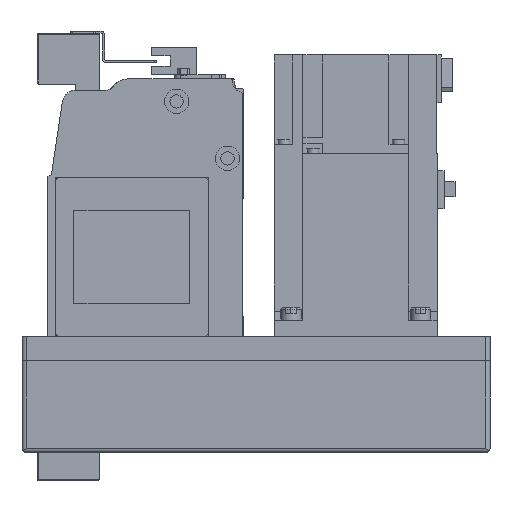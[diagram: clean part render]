
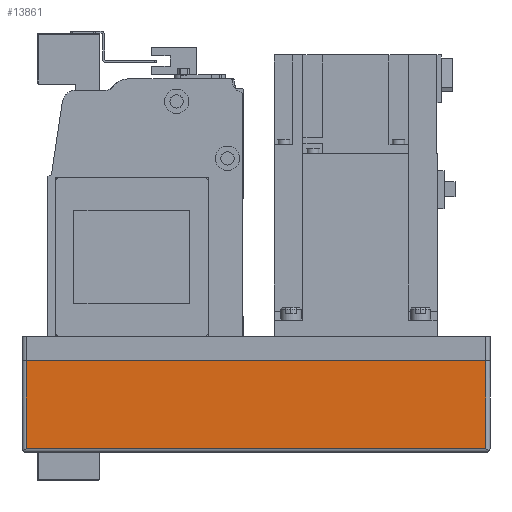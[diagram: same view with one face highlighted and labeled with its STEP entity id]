
A CAD part, left-side view. The second image highlights one B-rep face of the part: STEP entity #13861.
In plain terms, the highlighted planar face has unit normal (-1, 0, 0) as drawn and (0, 1, 0) by its records, which use the part's own axes.
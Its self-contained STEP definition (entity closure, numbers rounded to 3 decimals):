
#2502=ORIENTED_EDGE('',*,*,#5758,.F.);
#2503=ORIENTED_EDGE('',*,*,#5698,.T.);
#2504=ORIENTED_EDGE('',*,*,#5759,.F.);
#2505=ORIENTED_EDGE('',*,*,#5693,.F.);
#5693=EDGE_CURVE('',#7470,#7471,#8922,.T.);
#5698=EDGE_CURVE('',#7476,#7475,#8924,.T.);
#5758=EDGE_CURVE('',#7476,#7470,#8967,.T.);
#5759=EDGE_CURVE('',#7471,#7475,#8968,.T.);
#7470=VERTEX_POINT('',#21694);
#7471=VERTEX_POINT('',#21696);
#7475=VERTEX_POINT('',#21705);
#7476=VERTEX_POINT('',#21707);
#8922=LINE('',#21695,#10235);
#8924=LINE('',#21706,#10237);
#8967=LINE('',#21829,#10280);
#8968=LINE('',#21830,#10281);
#10235=VECTOR('',#17331,1000.);
#10237=VECTOR('',#17341,1000.);
#10280=VECTOR('',#17462,1000.);
#10281=VECTOR('',#17463,1000.);
#11388=EDGE_LOOP('',(#2502,#2503,#2504,#2505));
#12415=FACE_BOUND('',#11388,.T.);
#13274=PLANE('',#14894);
#13861=ADVANCED_FACE('',(#12415),#13274,.T.);
#14894=AXIS2_PLACEMENT_3D('',#21828,#17460,#17461);
#17331=DIRECTION('',(0.,0.,1.));
#17341=DIRECTION('',(0.,0.,1.));
#17460=DIRECTION('',(0.,1.,0.));
#17461=DIRECTION('',(0.,0.,1.));
#17462=DIRECTION('',(1.,0.,0.));
#17463=DIRECTION('',(-1.,0.,0.));
#21694=CARTESIAN_POINT('',(-2.,54.,-55.));
#21695=CARTESIAN_POINT('',(-2.,54.,-57.));
#21696=CARTESIAN_POINT('',(-2.,54.,-12.));
#21705=CARTESIAN_POINT('',(-228.,54.,-12.));
#21706=CARTESIAN_POINT('',(-228.,54.,-57.));
#21707=CARTESIAN_POINT('',(-228.,54.,-55.));
#21828=CARTESIAN_POINT('',(-2.,54.,-57.));
#21829=CARTESIAN_POINT('',(-230.,54.,-55.));
#21830=CARTESIAN_POINT('',(-2.,54.,-12.));
